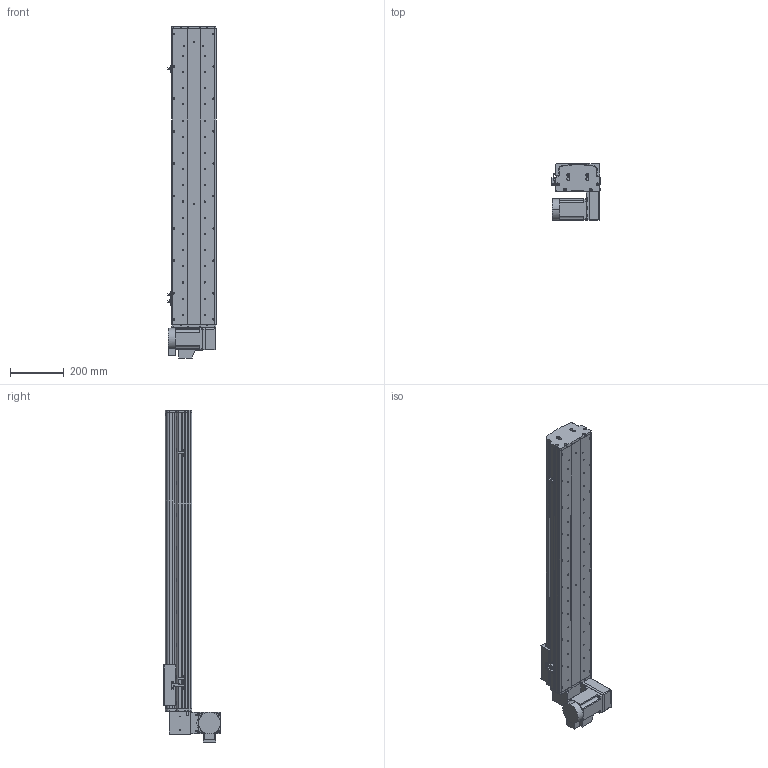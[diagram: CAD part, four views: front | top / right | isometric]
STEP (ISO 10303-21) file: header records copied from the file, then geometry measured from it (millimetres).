
FILE_DESCRIPTION (( 'STEP AP214' ), '1' );
FILE_NAME ('KSD165B-S850-MRD-CM .STEP', '2017-10-16T09:38:44', ( '微软用户' ), ( '微软中国' ), 'SwSTEP 2.0', 'SolidWorks 2014', '' );
FILE_SCHEMA (( 'AUTOMOTIVE_DESIGN' ));
Length unit declared in the file: millimetre
Products named in the file (17): 拸秶雄ん750W侜督萇儂; 165宽马达安装板同步带右; U倰嫖萇假蚾璃; U倰嫖萇EEㄜSX672; 覜茼え68遵圉猾敕; KSD165模组-同步带-防撞垫2; KSD165模组同步带-防撞垫1; KSD165耀郪-ヶ傷啣1-肮祭湍; KSD165模组-后端板1-同步带; KSD165模组-同步带滑动座-最新版; KSD165B-S850-MRD-CM ; 130宽模组马达安装板连板上下折丝杆同步带; 130宽模组保护罩上下左右折-同步带; HTPA26S5M250-A-H8 750W萇儂蚚; HTPA26S5M250-A-H8 400W萇儂蚚 ; KSD165模组-同步带防尘盖1-850行程-最新版; KSD165模组同步带底板-850行程-最新
Assembly tree (20 placements, depth 2):
  KSD165B-S850-MRD-CM 
    KSD165模组-同步带滑动座-最新版
    KSD165模组-后端板1-同步带
    KSD165耀郪-ヶ傷啣1-肮祭湍
    KSD165模组同步带-防撞垫1
    KSD165模组-同步带-防撞垫2
    覜茼え68遵圉猾敕
    U倰嫖萇EEㄜSX672  x3
    U倰嫖萇假蚾璃  x3
    165宽马达安装板同步带右
    拸秶雄ん750W侜督萇儂
    KSD165模组同步带底板-850行程-最新
    KSD165模组-同步带防尘盖1-850行程-最新版
    HTPA26S5M250-A-H8 400W萇儂蚚 
    HTPA26S5M250-A-H8 750W萇儂蚚
    130宽模组保护罩上下左右折-同步带
    130宽模组马达安装板连板上下折丝杆同步带
Bounding box: 178.7 x 210 x 1230.5 mm (x, y, z)
Volume: 7238175.6 mm3; surface area: 1681995 mm2
Topology: 21 solids, 21 shells, 1953 faces, 5514 edges, 3600 vertices
Faces by surface type: cylinder 1255, plane 586, cone 112
Entity records: 63340 total; most frequent: CARTESIAN_POINT 13000, DIRECTION 10414, ORIENTED_EDGE 9688, EDGE_CURVE 4844, AXIS2_PLACEMENT_3D 4084, VERTEX_POINT 3192, CIRCLE 2328, VECTOR 2246
